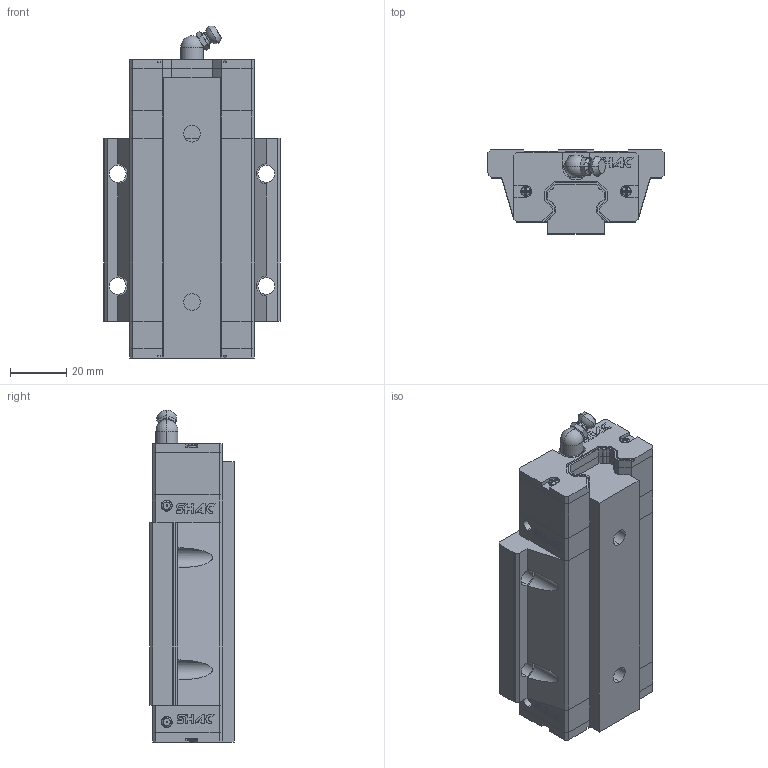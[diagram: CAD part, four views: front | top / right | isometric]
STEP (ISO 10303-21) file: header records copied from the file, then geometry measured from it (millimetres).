
FILE_DESCRIPTION (( 'STEP AP214' ), '1' );
FILE_NAME ('STP_GHW20HA_(E2)自润式_(R)上锁式_刮油片＋防尘条_1_100_100_GHW20HA_GHW20HA.step', '2020-06-27T02:08:35', ( 'IT Division' ), ( 'IT' ), 'SwSTEP 2.0', 'SolidWorks 2016', '' );
FILE_SCHEMA (( 'AUTOMOTIVE_DESIGN' ));
Length unit declared in the file: millimetre
Products named in the file (3): STP_GHW20HA_(E2)自润式_(R)上锁式_刮油片＋防尘条_1_100_100_GHW20HA_GHW20HA_2; STP_GHW20HA_(E2)自润式_(R)上锁式_刮油片＋防尘条_1_100_100_GHW20HA_GHW20HA_1; STP_GHW20HA_(E2)自润式_(R)上锁式_刮油片＋防尘条_1_100_100_GHW20HA_GHW20HA
Assembly tree (2 placements, depth 2):
  STP_GHW20HA_(E2)自润式_(R)上锁式_刮油片＋防尘条_1_100_100_GHW20HA_GHW20HA
    STP_GHW20HA_(E2)自润式_(R)上锁式_刮油片＋防尘条_1_100_100_GHW20HA_GHW20HA_1
    STP_GHW20HA_(E2)自润式_(R)上锁式_刮油片＋防尘条_1_100_100_GHW20HA_GHW20HA_2
Bounding box: 63 x 30 x 118.4 mm (x, y, z)
Volume: 138586.4 mm3; surface area: 41217.2 mm2
Topology: 8 solids, 8 shells, 846 faces, 2297 edges, 1514 vertices
Faces by surface type: plane 636, cylinder 152, torus 25, cone 23, sphere 10
Entity records: 30458 total; most frequent: CARTESIAN_POINT 4844, ORIENTED_EDGE 4586, DIRECTION 4404, EDGE_CURVE 2293, LINE 1804, VECTOR 1804, VERTEX_POINT 1512, AXIS2_PLACEMENT_3D 1300
